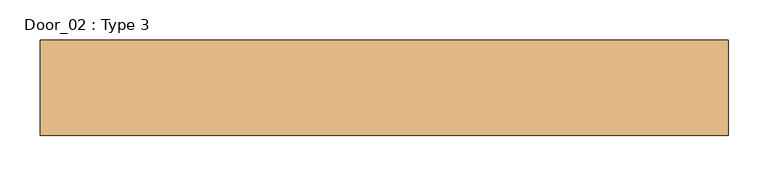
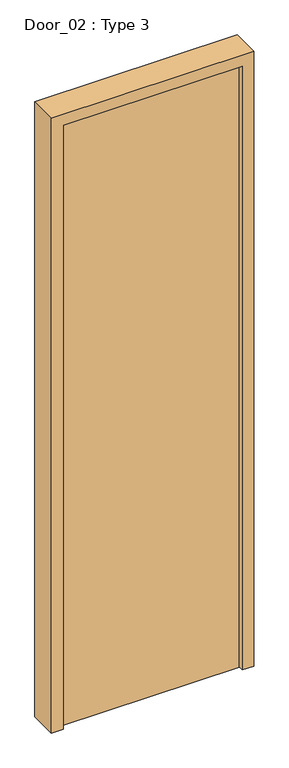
"""IFC4 building model written with IfcOpenShell, lengths in millimetres: door geometry, Door_02 : Type 3."""

from ifc_helpers import new_model, si_unit, frame, origin, origin_with_axes, place, context, project, spatial, polyline, outline, extrude, source, transform, mapped, element, save


def door_02_type_3_48e4adbd(model_context):
    return source(origin(), model_context, "Body", "SweptSolid", [
        extrude(outline(polyline([(380.0, 5.9955629), (380.0, -44.0044371), (-380.0, -44.0044371), (-380.0, 5.9955629), (380.0, 5.9955629)])), origin_with_axes(), (0.0, 0.0, 1.0), 2710.0),
        extrude(outline(polyline([(2760.0, -430.0), (0.0, -430.0), (0.0, -380.0), (2710.0, -380.0), (2710.0, 380.0), (0.0, 380.0), (0.0, 430.0), (2760.0, 430.0), (2760.0, -430.0)])), frame((0.0, -65.0, 0.0), z_axis=(0.0, 1.0, 0.0), x_axis=(0.0, 0.0, 1.0)), (0.0, 0.0, 1.0), 120.0),
    ])


if __name__ == "__main__":
    model = new_model("IFC4")
    model_context = context("Model", 3, world=origin())
    ifc_project = project(units=[si_unit("LENGTHUNIT", "METRE", prefix="MILLI")], contexts=[model_context])
    site = spatial("IfcSite", under=ifc_project)
    building = spatial("IfcBuilding", under=site)
    placement = place(None, origin())
    door_02_type_3_shape = door_02_type_3_48e4adbd(model_context)
    element("IfcDoor", 1, ObjectType="Door_02 : Type 3", at=placement, inside=building, context=model_context, shape_type="MappedRepresentation", body=[
        mapped(door_02_type_3_shape, transform((0.0, 0.0, 0.0), x_axis=(1.0, 0.0, 0.0), y_axis=(0.0, 1.0, 0.0), z_axis=(0.0, 0.0, 1.0))),
    ])
    save(model, "model.ifc")
